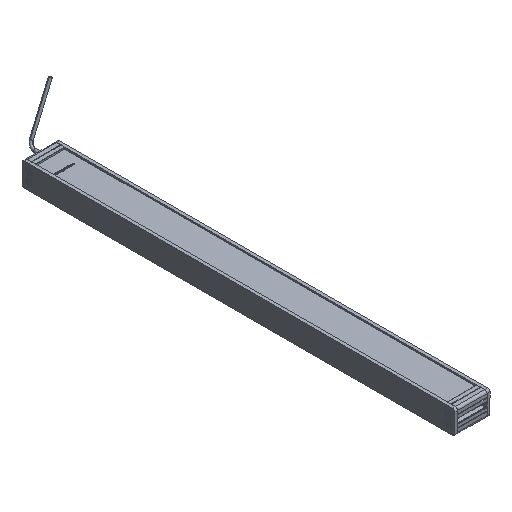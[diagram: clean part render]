
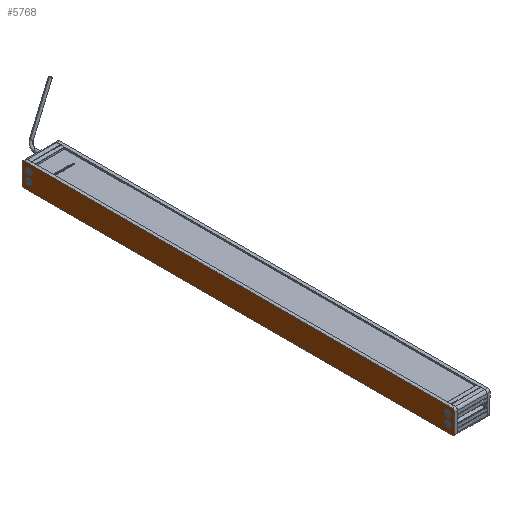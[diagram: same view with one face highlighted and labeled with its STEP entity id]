
A CAD part, isometric view. The second image highlights one B-rep face of the part: STEP entity #5768.
In plain terms, the highlighted planar face has unit normal (-1, 0, 0) as drawn and (0, 0, -1) by its records, which use the part's own axes.
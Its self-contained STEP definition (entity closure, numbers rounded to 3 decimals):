
#102 = LINE ( 'NONE', #7713, #8648 ) ;
#228 = VERTEX_POINT ( 'NONE', #7863 ) ;
#236 = CARTESIAN_POINT ( 'NONE',  ( -368., 16., 0. ) ) ;
#369 = DIRECTION ( 'NONE',  ( 0., 0., -1. ) ) ;
#489 = DIRECTION ( 'NONE',  ( -1., 0., 0. ) ) ;
#498 = CARTESIAN_POINT ( 'NONE',  ( -368., -16., 0. ) ) ;
#570 = ORIENTED_EDGE ( 'NONE', *, *, #3454, .F. ) ;
#663 = CARTESIAN_POINT ( 'NONE',  ( -356.3, -6.3, 0. ) ) ;
#717 = CARTESIAN_POINT ( 'NONE',  ( 356.3, 8.5, 0. ) ) ;
#764 = CARTESIAN_POINT ( 'NONE',  ( -364., -16., 0. ) ) ;
#854 = DIRECTION ( 'NONE',  ( -1., 0., 0. ) ) ;
#967 = DIRECTION ( 'NONE',  ( 0., 0., -1. ) ) ;
#1196 = CARTESIAN_POINT ( 'NONE',  ( -350.7, 8.5, 0. ) ) ;
#1253 = DIRECTION ( 'NONE',  ( 0., 0., -1. ) ) ;
#1254 = CARTESIAN_POINT ( 'NONE',  ( -356.3, -6.3, 0. ) ) ;
#1547 = CARTESIAN_POINT ( 'NONE',  ( 368., -16., 0. ) ) ;
#1643 = ORIENTED_EDGE ( 'NONE', *, *, #6073, .F. ) ;
#1737 = VECTOR ( 'NONE', #7063, 1000. ) ;
#2129 = CARTESIAN_POINT ( 'NONE',  ( 364., -16., 0. ) ) ;
#2247 = ORIENTED_EDGE ( 'NONE', *, *, #4032, .F. ) ;
#2258 = VERTEX_POINT ( 'NONE', #18647 ) ;
#2332 = CARTESIAN_POINT ( 'NONE',  ( -361.9, 8.5, 0. ) ) ;
#2369 = EDGE_LOOP ( 'NONE', ( #5539, #14301, #570, #5113, #15767, #11908, #7899, #2247 ) ) ;
#2456 = DIRECTION ( 'NONE',  ( 0., 1., 0. ) ) ;
#2635 = CARTESIAN_POINT ( 'NONE',  ( -350.7, -6.3, 0. ) ) ;
#3116 = CIRCLE ( 'NONE', #14208, 5.6 ) ;
#3267 = VERTEX_POINT ( 'NONE', #2635 ) ;
#3352 = CIRCLE ( 'NONE', #13501, 5.6 ) ;
#3454 = EDGE_CURVE ( 'NONE', #19421, #8180, #6113, .T. ) ;
#3505 = DIRECTION ( 'NONE',  ( -1., 0., 0. ) ) ;
#3560 = DIRECTION ( 'NONE',  ( 0., 0., -1. ) ) ;
#3618 = EDGE_LOOP ( 'NONE', ( #7118, #11725 ) ) ;
#3723 = DIRECTION ( 'NONE',  ( -1., 0., 0. ) ) ;
#3766 = ORIENTED_EDGE ( 'NONE', *, *, #14035, .F. ) ;
#3821 = DIRECTION ( 'NONE',  ( 0., 0., 1. ) ) ;
#3994 = CARTESIAN_POINT ( 'NONE',  ( 364., -20., 0. ) ) ;
#4032 = EDGE_CURVE ( 'NONE', #17255, #2258, #102, .T. ) ;
#4126 = PLANE ( 'NONE',  #14403 ) ;
#4202 = EDGE_CURVE ( 'NONE', #13081, #16653, #19404, .T. ) ;
#4224 = CARTESIAN_POINT ( 'NONE',  ( 350.7, 8.5, 0. ) ) ;
#4884 = VECTOR ( 'NONE', #19082, 1000. ) ;
#4909 = DIRECTION ( 'NONE',  ( 0., 0., 1. ) ) ;
#5004 = CARTESIAN_POINT ( 'NONE',  ( -356.3, 8.5, 0. ) ) ;
#5104 = DIRECTION ( 'NONE',  ( -1., 0., 0. ) ) ;
#5113 = ORIENTED_EDGE ( 'NONE', *, *, #6009, .F. ) ;
#5179 = DIRECTION ( 'NONE',  ( 0., 0., 1. ) ) ;
#5539 = ORIENTED_EDGE ( 'NONE', *, *, #13384, .F. ) ;
#5768 = ADVANCED_FACE ( 'NONE', ( #7494, #10466, #13547, #7114, #14818 ), #4126, .T. ) ;
#5956 = VERTEX_POINT ( 'NONE', #9674 ) ;
#6009 = EDGE_CURVE ( 'NONE', #15408, #19421, #9965, .T. ) ;
#6073 = EDGE_CURVE ( 'NONE', #228, #3267, #19135, .T. ) ;
#6113 = CIRCLE ( 'NONE', #8954, 4. ) ;
#6254 = CIRCLE ( 'NONE', #18913, 4. ) ;
#6567 = EDGE_CURVE ( 'NONE', #16241, #10205, #16085, .T. ) ;
#6601 = ORIENTED_EDGE ( 'NONE', *, *, #11844, .F. ) ;
#6651 = AXIS2_PLACEMENT_3D ( 'NONE', #14893, #15092, #9987 ) ;
#6894 = DIRECTION ( 'NONE',  ( 0., 0., 1. ) ) ;
#6947 = ORIENTED_EDGE ( 'NONE', *, *, #8775, .F. ) ;
#7063 = DIRECTION ( 'NONE',  ( 0., -1., 0. ) ) ;
#7114 = FACE_BOUND ( 'NONE', #9630, .T. ) ;
#7118 = ORIENTED_EDGE ( 'NONE', *, *, #4202, .F. ) ;
#7202 = DIRECTION ( 'NONE',  ( -1., 0., 0. ) ) ;
#7338 = LINE ( 'NONE', #16065, #9388 ) ;
#7494 = FACE_BOUND ( 'NONE', #14232, .T. ) ;
#7524 = EDGE_CURVE ( 'NONE', #13626, #15710, #15110, .T. ) ;
#7712 = DIRECTION ( 'NONE',  ( 0., 0., -1. ) ) ;
#7713 = CARTESIAN_POINT ( 'NONE',  ( -364., 20., 0. ) ) ;
#7779 = CIRCLE ( 'NONE', #15098, 5.6 ) ;
#7863 = CARTESIAN_POINT ( 'NONE',  ( -361.9, -6.3, 0. ) ) ;
#7899 = ORIENTED_EDGE ( 'NONE', *, *, #11989, .F. ) ;
#8180 = VERTEX_POINT ( 'NONE', #1547 ) ;
#8249 = CARTESIAN_POINT ( 'NONE',  ( 364., 16., 0. ) ) ;
#8338 = EDGE_LOOP ( 'NONE', ( #3766, #11015 ) ) ;
#8472 = AXIS2_PLACEMENT_3D ( 'NONE', #1254, #10565, #7202 ) ;
#8648 = VECTOR ( 'NONE', #16649, 1000. ) ;
#8775 = EDGE_CURVE ( 'NONE', #19195, #19226, #3352, .T. ) ;
#8937 = EDGE_CURVE ( 'NONE', #8180, #5956, #7338, .T. ) ;
#8954 = AXIS2_PLACEMENT_3D ( 'NONE', #2129, #3821, #10968 ) ;
#9388 = VECTOR ( 'NONE', #2456, 1000. ) ;
#9630 = EDGE_LOOP ( 'NONE', ( #1643, #6601 ) ) ;
#9674 = CARTESIAN_POINT ( 'NONE',  ( 368., 16., 0. ) ) ;
#9776 = CIRCLE ( 'NONE', #13889, 4. ) ;
#9895 = CARTESIAN_POINT ( 'NONE',  ( 356.3, -6.3, 0. ) ) ;
#9965 = LINE ( 'NONE', #12754, #4884 ) ;
#9987 = DIRECTION ( 'NONE',  ( -1., 0., 0. ) ) ;
#10205 = VERTEX_POINT ( 'NONE', #498 ) ;
#10371 = DIRECTION ( 'NONE',  ( 0., 0., -1. ) ) ;
#10466 = FACE_BOUND ( 'NONE', #3618, .T. ) ;
#10565 = DIRECTION ( 'NONE',  ( 0., 0., -1. ) ) ;
#10864 = CARTESIAN_POINT ( 'NONE',  ( 350.7, -6.3, 0. ) ) ;
#10873 = AXIS2_PLACEMENT_3D ( 'NONE', #9895, #10371, #13548 ) ;
#10968 = DIRECTION ( 'NONE',  ( 1., 0., 0. ) ) ;
#11015 = ORIENTED_EDGE ( 'NONE', *, *, #7524, .F. ) ;
#11112 = EDGE_CURVE ( 'NONE', #10205, #15408, #9776, .T. ) ;
#11231 = DIRECTION ( 'NONE',  ( -1., 0., 0. ) ) ;
#11627 = EDGE_CURVE ( 'NONE', #16653, #13081, #7779, .T. ) ;
#11725 = ORIENTED_EDGE ( 'NONE', *, *, #11627, .F. ) ;
#11844 = EDGE_CURVE ( 'NONE', #3267, #228, #18924, .T. ) ;
#11908 = ORIENTED_EDGE ( 'NONE', *, *, #6567, .F. ) ;
#11989 = EDGE_CURVE ( 'NONE', #2258, #16241, #6254, .T. ) ;
#12754 = CARTESIAN_POINT ( 'NONE',  ( -364., -20., 0. ) ) ;
#12918 = AXIS2_PLACEMENT_3D ( 'NONE', #18804, #967, #3723 ) ;
#13081 = VERTEX_POINT ( 'NONE', #10864 ) ;
#13158 = CARTESIAN_POINT ( 'NONE',  ( 364., 16., 0. ) ) ;
#13249 = CIRCLE ( 'NONE', #17040, 4. ) ;
#13384 = EDGE_CURVE ( 'NONE', #5956, #17255, #13249, .T. ) ;
#13501 = AXIS2_PLACEMENT_3D ( 'NONE', #717, #3560, #18634 ) ;
#13547 = FACE_BOUND ( 'NONE', #8338, .T. ) ;
#13548 = DIRECTION ( 'NONE',  ( -1., 0., 0. ) ) ;
#13626 = VERTEX_POINT ( 'NONE', #1196 ) ;
#13692 = CARTESIAN_POINT ( 'NONE',  ( 361.9, -6.3, 0. ) ) ;
#13776 = AXIS2_PLACEMENT_3D ( 'NONE', #663, #17209, #854 ) ;
#13889 = AXIS2_PLACEMENT_3D ( 'NONE', #764, #6894, #5104 ) ;
#14029 = CARTESIAN_POINT ( 'NONE',  ( 361.9, 8.5, 0. ) ) ;
#14035 = EDGE_CURVE ( 'NONE', #15710, #13626, #3116, .T. ) ;
#14208 = AXIS2_PLACEMENT_3D ( 'NONE', #5004, #369, #3505 ) ;
#14232 = EDGE_LOOP ( 'NONE', ( #6947, #16989 ) ) ;
#14301 = ORIENTED_EDGE ( 'NONE', *, *, #8937, .F. ) ;
#14403 = AXIS2_PLACEMENT_3D ( 'NONE', #13158, #1253, #19193 ) ;
#14587 = CARTESIAN_POINT ( 'NONE',  ( -368., -16., 0. ) ) ;
#14818 = FACE_OUTER_BOUND ( 'NONE', #2369, .T. ) ;
#14893 = CARTESIAN_POINT ( 'NONE',  ( 356.3, 8.5, 0. ) ) ;
#15092 = DIRECTION ( 'NONE',  ( 0., 0., -1. ) ) ;
#15098 = AXIS2_PLACEMENT_3D ( 'NONE', #18406, #7712, #489 ) ;
#15110 = CIRCLE ( 'NONE', #12918, 5.6 ) ;
#15233 = CARTESIAN_POINT ( 'NONE',  ( -364., 16., 0. ) ) ;
#15408 = VERTEX_POINT ( 'NONE', #19446 ) ;
#15710 = VERTEX_POINT ( 'NONE', #2332 ) ;
#15767 = ORIENTED_EDGE ( 'NONE', *, *, #11112, .F. ) ;
#16065 = CARTESIAN_POINT ( 'NONE',  ( 368., -16., 0. ) ) ;
#16085 = LINE ( 'NONE', #14587, #1737 ) ;
#16241 = VERTEX_POINT ( 'NONE', #236 ) ;
#16649 = DIRECTION ( 'NONE',  ( -1., 0., 0. ) ) ;
#16653 = VERTEX_POINT ( 'NONE', #13692 ) ;
#16989 = ORIENTED_EDGE ( 'NONE', *, *, #17230, .F. ) ;
#17012 = DIRECTION ( 'NONE',  ( -1., 0., 0. ) ) ;
#17040 = AXIS2_PLACEMENT_3D ( 'NONE', #8249, #5179, #11231 ) ;
#17209 = DIRECTION ( 'NONE',  ( 0., 0., -1. ) ) ;
#17230 = EDGE_CURVE ( 'NONE', #19226, #19195, #18677, .T. ) ;
#17255 = VERTEX_POINT ( 'NONE', #17529 ) ;
#17529 = CARTESIAN_POINT ( 'NONE',  ( 364., 20., 0. ) ) ;
#18406 = CARTESIAN_POINT ( 'NONE',  ( 356.3, -6.3, 0. ) ) ;
#18634 = DIRECTION ( 'NONE',  ( -1., 0., 0. ) ) ;
#18647 = CARTESIAN_POINT ( 'NONE',  ( -364., 20., 0. ) ) ;
#18677 = CIRCLE ( 'NONE', #6651, 5.6 ) ;
#18804 = CARTESIAN_POINT ( 'NONE',  ( -356.3, 8.5, 0. ) ) ;
#18913 = AXIS2_PLACEMENT_3D ( 'NONE', #15233, #4909, #17012 ) ;
#18924 = CIRCLE ( 'NONE', #8472, 5.6 ) ;
#19082 = DIRECTION ( 'NONE',  ( 1., 0., 0. ) ) ;
#19135 = CIRCLE ( 'NONE', #13776, 5.6 ) ;
#19193 = DIRECTION ( 'NONE',  ( -1., 0., 0. ) ) ;
#19195 = VERTEX_POINT ( 'NONE', #4224 ) ;
#19226 = VERTEX_POINT ( 'NONE', #14029 ) ;
#19404 = CIRCLE ( 'NONE', #10873, 5.6 ) ;
#19421 = VERTEX_POINT ( 'NONE', #3994 ) ;
#19446 = CARTESIAN_POINT ( 'NONE',  ( -364., -20., 0. ) ) ;
